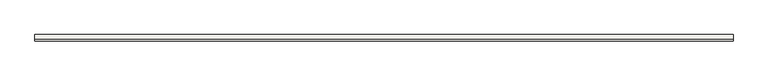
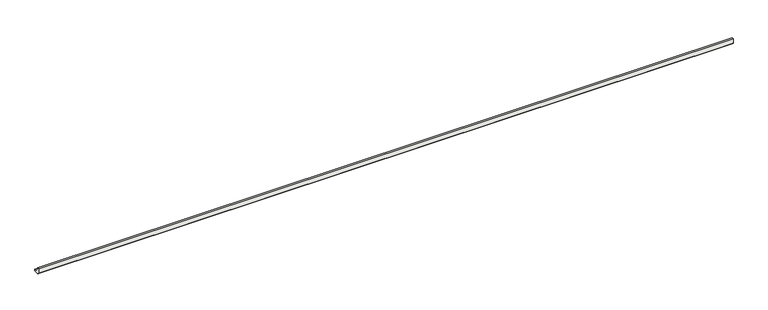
"""IFC4 building model written with IfcOpenShell, lengths in millimetres: slab geometry, ROSA GRES_188 : Pieza 188_Tresor_Java_Anti-Slip."""

from ifc_helpers import new_model, si_unit, point, frame, frame_2d, origin, place, context, project, spatial, polyline, circle_curve, trimmed, segment, composite_curve, outline, extrude, source, transform, mapped, element, save


def slab_09cf9e1c(model_context):
    return source(origin(), model_context, "Body", "SweptSolid", [
        extrude(outline(composite_curve([segment(polyline([(0.0, 8.7114978), (0.0, 40.0), (9.9734114, 40.0)]), True, "CONTINUOUS"), segment(trimmed(circle_curve(frame_2d((39.9955547, 39.9955547)), 30.0221435), [point((9.9734114, 40.0))], [point((40.0, 9.9734114))], True, "CARTESIAN"), True, "CONTINUOUS"), segment(polyline([(40.0, 9.9734114), (40.0, 0.0), (8.7114978, 0.0), (0.0, 8.7114978)]), True, "CONTINUOUS")], self_intersect=False)), frame((0.0, 0.0, 0.0), z_axis=(1.0, 0.0, 0.0), x_axis=(0.0, 1.0, 0.0)), (0.0, 0.0, 1.0), 4329.9734114),
    ])


if __name__ == "__main__":
    model = new_model("IFC4")
    model_context = context("Model", 3, world=origin())
    ifc_project = project(units=[si_unit("LENGTHUNIT", "METRE", prefix="MILLI")], contexts=[model_context])
    site = spatial("IfcSite", under=ifc_project)
    building = spatial("IfcBuilding", under=site)
    placement = place(None, origin())
    slab_shape = slab_09cf9e1c(model_context)
    element("IfcSlab", 1, ObjectType="ROSA GRES_188 : Pieza 188_Tresor_Java_Anti-Slip", at=placement, inside=building, context=model_context, shape_type="MappedRepresentation", body=[
        mapped(slab_shape, transform((0.0, 0.0, 0.0), x_axis=(1.0, 0.0, 0.0), y_axis=(0.0, 1.0, 0.0), z_axis=(0.0, 0.0, 1.0))),
    ])
    save(model, "model.ifc")
